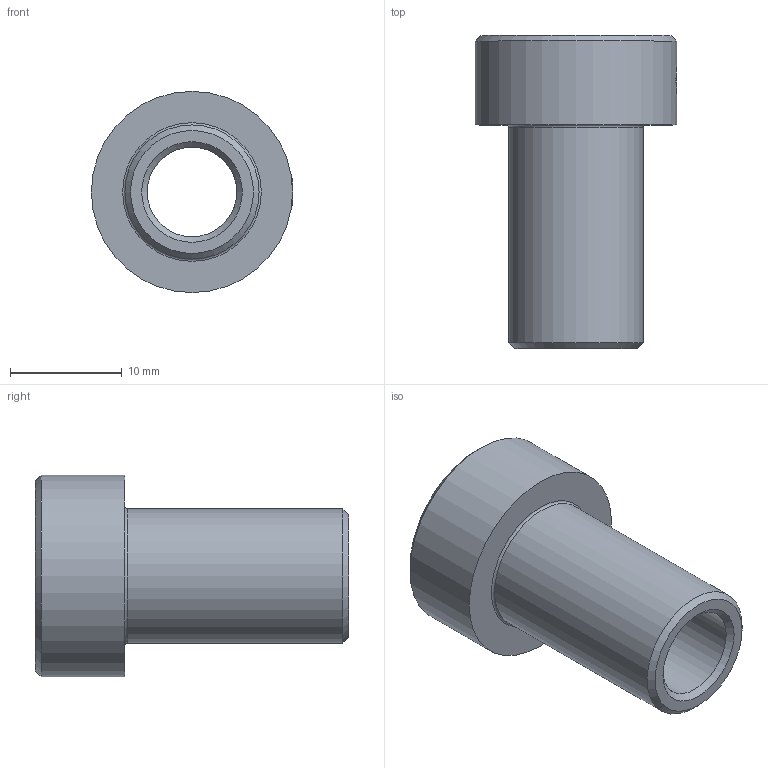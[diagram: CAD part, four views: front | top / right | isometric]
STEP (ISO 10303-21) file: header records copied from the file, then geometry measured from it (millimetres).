
FILE_DESCRIPTION(/* description */ (''),/* implementation_level */ '2;1');
FILE_NAME(/* name */ 'C:\Local Work Area\Progetti\AP\CALIBRI\03 Portacomparatore\03.66 A.stp',/* time_stamp */ '2015-04-01T11:19:02+02:00',/* author */ ('CAD5'),/* organization */ (''),/* preprocessor_version */ 'ST-DEVELOPER v15.2',/* originating_system */ 'Autodesk Inventor 2014',/* authorisation */ '');
FILE_SCHEMA (('AUTOMOTIVE_DESIGN { 1 0 10303 214 3 1 1 }'));
Length unit declared in the file: millimetre
Products named in the file (3): 03.66; UNI 5923 - M3 x 5 - 0,5; 03.66 A
Bounding box: 18 x 28 x 18 mm (x, y, z)
Volume: 2879.9 mm3; surface area: 2365.8 mm2
Topology: 2 solids, 2 shells, 24 faces, 54 edges, 33 vertices
Faces by surface type: plane 11, cone 7, cylinder 5, torus 1
Full cylindrical faces by diameter (mm): 2.459 x1, 3 x1, 8 x1, 12 x1, 18 x1
Entity records: 695 total; most frequent: CARTESIAN_POINT 175, DIRECTION 100, ORIENTED_EDGE 72, AXIS2_PLACEMENT_3D 44, EDGE_LOOP 42, EDGE_CURVE 36, VERTEX_POINT 30, ADVANCED_FACE 24
